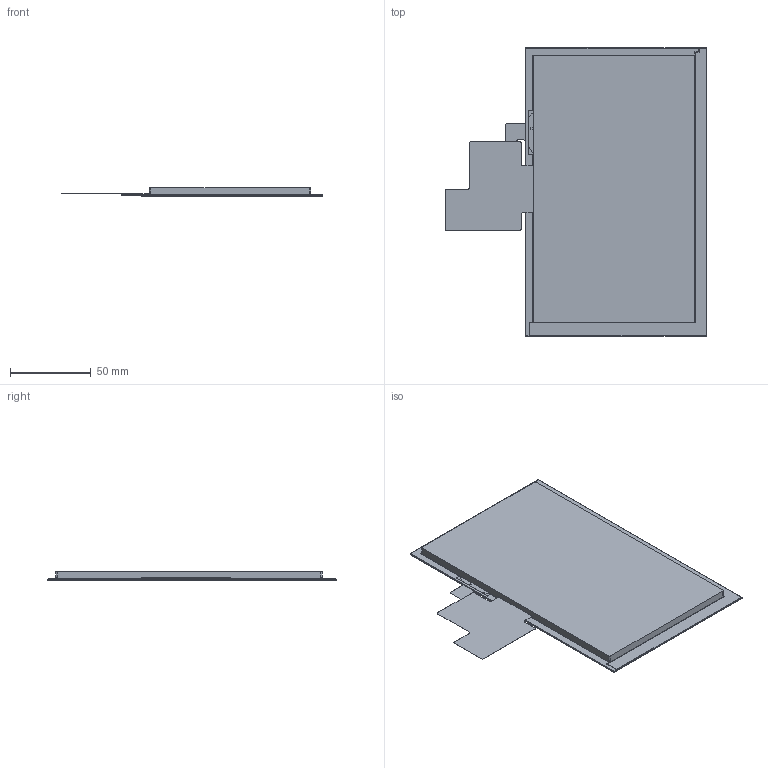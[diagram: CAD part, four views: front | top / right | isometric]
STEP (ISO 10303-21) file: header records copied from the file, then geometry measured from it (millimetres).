
FILE_DESCRIPTION((''),'2;1');
FILE_NAME('DMG10600F070_01WTCZ01','2022-04-24T',('Administrator'),(''),'PRO/ENGINEER BY PARAMETRIC TECHNOLOGY CORPORATION, 2011310','PRO/ENGINEER BY PARAMETRIC TECHNOLOGY CORPORATION, 2011310','');
FILE_SCHEMA(('CONFIG_CONTROL_DESIGN','SHAPE_APPEARANCE_LAYERS_GROUPS'));
Length unit declared in the file: millimetre
Products named in the file (1): DMG10600F070_01WTCZ01
Bounding box: 161.89 x 178.73 x 5.3 mm (x, y, z)
Volume: 88122.4 mm3; surface area: 74845.8 mm2
Topology: 1 solids, 2 shells, 101 faces, 282 edges, 188 vertices
Faces by surface type: plane 78, cylinder 23
Entity records: 3403 total; most frequent: CARTESIAN_POINT 573, ORIENTED_EDGE 564, DIRECTION 528, EDGE_CURVE 282, VECTOR 234, LINE 234, VERTEX_POINT 188, AXIS2_PLACEMENT_3D 147
